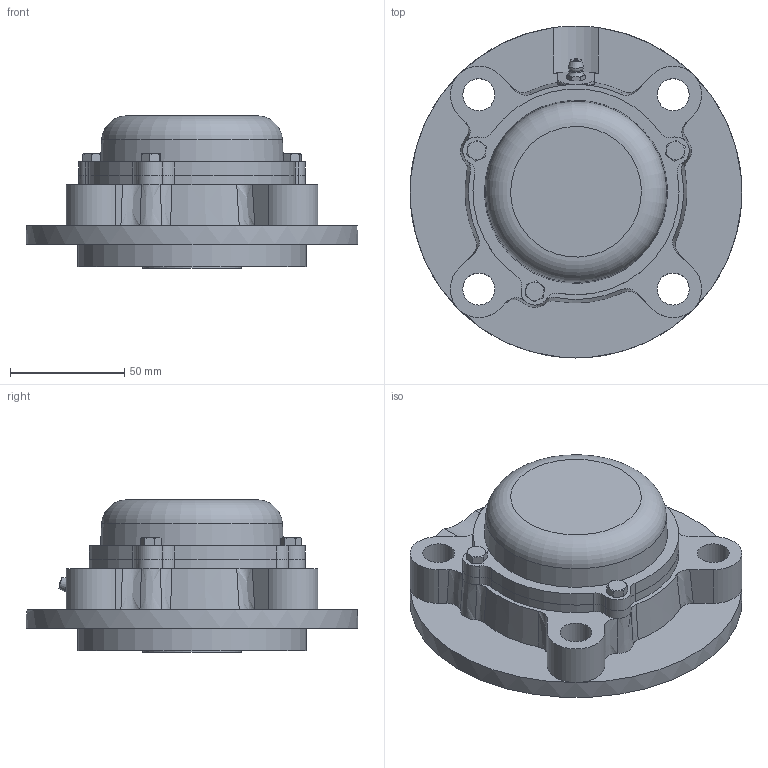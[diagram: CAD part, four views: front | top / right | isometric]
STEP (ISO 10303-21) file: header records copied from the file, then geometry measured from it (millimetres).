
FILE_DESCRIPTION((''),'2;1');
FILE_NAME('\\Ts-tgl068\j-cad-d-base\00.3DCADデータ作成フォルダ\02.フランジ形\CUKFC200\CUKFC208CE+H.stp','2014-05-22T08:57:42',('btec_1106_2'),(''),'Autodesk Inventor 2012','Autodesk Inventor 2012','');
FILE_SCHEMA(('AUTOMOTIVE_DESIGN { 1 0 10303 214 1 1 1 1 }'));
Length unit declared in the file: millimetre
Products named in the file (7): CUKFC200CE+H; CFC208; UK208; GU1; 208CE; M5X0
Assembly tree (8 placements, depth 3):
  CUKFC200CE+H
    CFC208
    UK208
    GU1
    208CE
      208CE
      M5X0  x3
Bounding box: 145 x 145 x 66.5 mm (x, y, z)
Volume: 357034.8 mm3; surface area: 101357.8 mm2
Topology: 7 solids, 7 shells, 293 faces, 747 edges, 481 vertices
Faces by surface type: plane 114, cylinder 82, cone 75, bspline 14, sphere 4, torus 4
Full cylindrical faces by diameter (mm): 4.134 x3, 5 x3, 5.359 x1, 6 x3, 6.35 x1, 14 x4, 35 x1, 53 x2, 78 x1, 82 x1, 100 x1, 145 x1
Entity records: 8418 total; most frequent: CARTESIAN_POINT 2352, ORIENTED_EDGE 1244, DIRECTION 1201, EDGE_CURVE 622, AXIS2_PLACEMENT_3D 504, VERTEX_POINT 419, EDGE_LOOP 328, FACE_OUTER_BOUND 259
